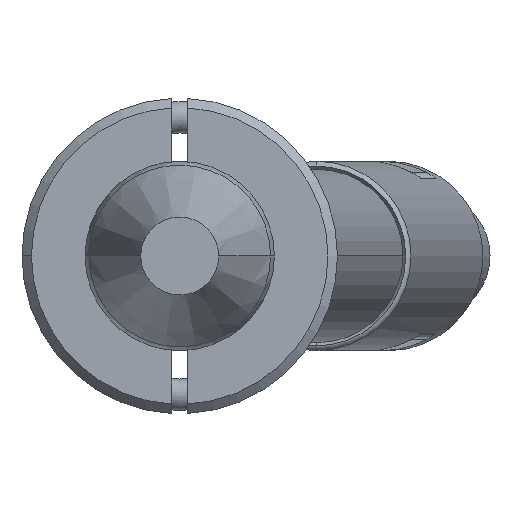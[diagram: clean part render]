
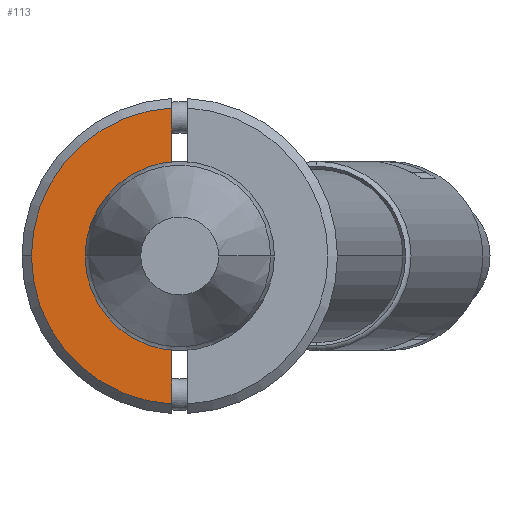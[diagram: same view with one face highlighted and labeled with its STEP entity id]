
A CAD part, front view. The second image highlights one B-rep face of the part: STEP entity #113.
In plain terms, the highlighted planar face has unit normal (0, -1, 0).
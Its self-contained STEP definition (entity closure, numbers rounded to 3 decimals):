
#113 = ADVANCED_FACE ( 'NONE', ( #2026 ), #2621, .T. ) ;
#122 = AXIS2_PLACEMENT_3D ( 'NONE', #361, #3321, #3303 ) ;
#249 = VECTOR ( 'NONE', #1181, 1000. ) ;
#258 = DIRECTION ( 'NONE',  ( 0., 0., -1. ) ) ;
#361 = CARTESIAN_POINT ( 'NONE',  ( 0., -6., 0. ) ) ;
#421 = AXIS2_PLACEMENT_3D ( 'NONE', #2044, #579, #889 ) ;
#429 = EDGE_CURVE ( 'NONE', #2858, #2988, #3432, .T. ) ;
#481 = CARTESIAN_POINT ( 'NONE',  ( -4.693, -6., 0.25 ) ) ;
#491 = CARTESIAN_POINT ( 'NONE',  ( 0., -6., 4.7 ) ) ;
#579 = DIRECTION ( 'NONE',  ( 0., -1., 0. ) ) ;
#625 = CARTESIAN_POINT ( 'NONE',  ( 4.693, -6., 0.25 ) ) ;
#700 = EDGE_LOOP ( 'NONE', ( #2590, #2670, #2466, #1235, #2936 ) ) ;
#756 = CARTESIAN_POINT ( 'NONE',  ( 2.437, -6., 0.25 ) ) ;
#889 = DIRECTION ( 'NONE',  ( 0., 0., -1. ) ) ;
#918 = CARTESIAN_POINT ( 'NONE',  ( 0., -6., 0. ) ) ;
#1000 = EDGE_CURVE ( 'NONE', #2858, #1543, #3041, .T. ) ;
#1181 = DIRECTION ( 'NONE',  ( -1., 0., 0. ) ) ;
#1235 = ORIENTED_EDGE ( 'NONE', *, *, #1000, .F. ) ;
#1289 = CARTESIAN_POINT ( 'NONE',  ( -2.437, -6., 0.25 ) ) ;
#1301 = EDGE_CURVE ( 'NONE', #2255, #1543, #2552, .T. ) ;
#1349 = CARTESIAN_POINT ( 'NONE',  ( -5., -6., 0.25 ) ) ;
#1440 = CARTESIAN_POINT ( 'NONE',  ( 0., -6., 0. ) ) ;
#1543 = VERTEX_POINT ( 'NONE', #481 ) ;
#1793 = CIRCLE ( 'NONE', #3589, 4.7 ) ;
#2026 = FACE_OUTER_BOUND ( 'NONE', #700, .T. ) ;
#2044 = CARTESIAN_POINT ( 'NONE',  ( -5., -6., 0. ) ) ;
#2114 = DIRECTION ( 'NONE',  ( 0., -1., 0. ) ) ;
#2118 = CARTESIAN_POINT ( 'NONE',  ( -5., -6., 0.25 ) ) ;
#2255 = VERTEX_POINT ( 'NONE', #491 ) ;
#2279 = EDGE_CURVE ( 'NONE', #2426, #2255, #1793, .T. ) ;
#2426 = VERTEX_POINT ( 'NONE', #625 ) ;
#2466 = ORIENTED_EDGE ( 'NONE', *, *, #1301, .T. ) ;
#2483 = DIRECTION ( 'NONE',  ( -1., 0., 0. ) ) ;
#2552 = CIRCLE ( 'NONE', #3108, 4.7 ) ;
#2590 = ORIENTED_EDGE ( 'NONE', *, *, #3573, .F. ) ;
#2621 = PLANE ( 'NONE',  #421 ) ;
#2670 = ORIENTED_EDGE ( 'NONE', *, *, #2279, .T. ) ;
#2843 = LINE ( 'NONE', #1349, #3799 ) ;
#2858 = VERTEX_POINT ( 'NONE', #1289 ) ;
#2936 = ORIENTED_EDGE ( 'NONE', *, *, #429, .T. ) ;
#2988 = VERTEX_POINT ( 'NONE', #756 ) ;
#3041 = LINE ( 'NONE', #2118, #249 ) ;
#3108 = AXIS2_PLACEMENT_3D ( 'NONE', #918, #2114, #3813 ) ;
#3176 = DIRECTION ( 'NONE',  ( 0., -1., 0. ) ) ;
#3303 = DIRECTION ( 'NONE',  ( 0., 0., -1. ) ) ;
#3321 = DIRECTION ( 'NONE',  ( 0., 1., 0. ) ) ;
#3432 = CIRCLE ( 'NONE', #122, 2.45 ) ;
#3573 = EDGE_CURVE ( 'NONE', #2426, #2988, #2843, .T. ) ;
#3589 = AXIS2_PLACEMENT_3D ( 'NONE', #1440, #3176, #258 ) ;
#3799 = VECTOR ( 'NONE', #2483, 1000. ) ;
#3813 = DIRECTION ( 'NONE',  ( 0., 0., -1. ) ) ;
